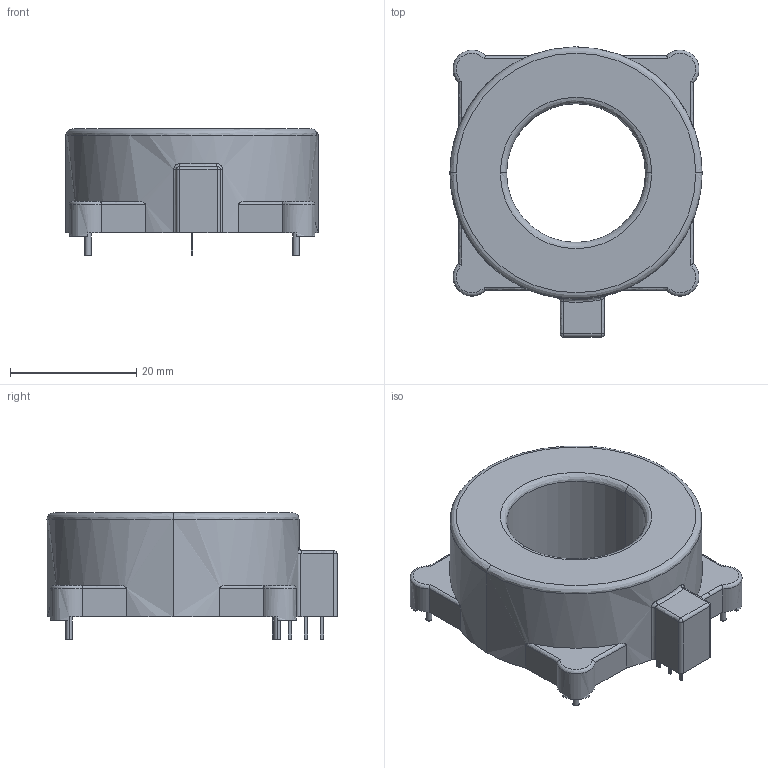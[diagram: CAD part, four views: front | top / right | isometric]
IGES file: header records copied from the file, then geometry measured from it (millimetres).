
Start section: Elysium IGES Interface
Global section: file name: 123HC:\Documents and Settings\tah\デスクトップ\BLACK_BOX\HTFS\HTFS_XXX-P_SP2 series_blackbox\HTFS_XXX-P_SP2 series_blackbox.igs; native system: CoCreate Modeling 17.00A  17-Jun-2010; preprocessor: CoCreate IGES_3D V2.2; author: Unknown; organization: Unknown; date: 20131018.202503; units: millimetre
Bounding box: 40 x 46 x 20 mm (x, y, z)
Volume: 15256.5 mm3; surface area: 5873.4 mm2
Topology: 1 solids, 1 shells, 132 faces, 328 edges, 206 vertices
Faces by surface type: bspline 132
